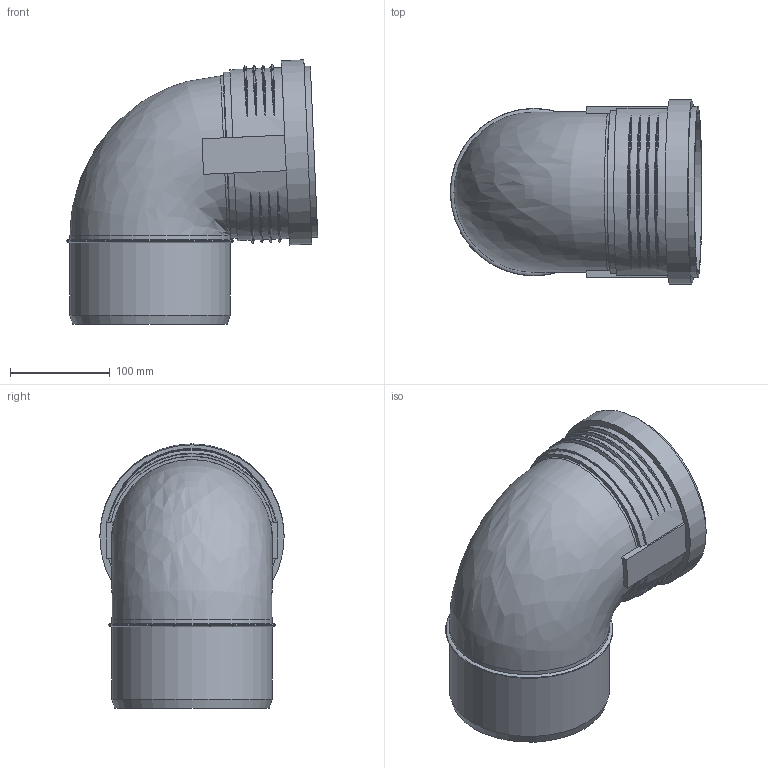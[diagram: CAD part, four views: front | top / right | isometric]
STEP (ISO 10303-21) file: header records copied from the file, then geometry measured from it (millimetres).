
FILE_DESCRIPTION(/* description */ (''),/* implementation_level */ '2;1');
FILE_NAME(/* name */ 'Z:\Geberit\Export\NewStep\390724.stp',/* time_stamp */ '2014-04-02T08:16:42+02:00',/* author */ ('ML'),/* organization */ (''),/* preprocessor_version */ 'ST-DEVELOPER v15.2',/* originating_system */ 'Autodesk Inventor 2014',/* authorisation */ '');
FILE_SCHEMA (('AUTOMOTIVE_DESIGN { 1 0 10303 214 3 1 1 }'));
Length unit declared in the file: millimetre
Products named in the file (3): 861600; 861560; 390724
Bounding box: 251.8 x 184.5 x 264.5 mm (x, y, z)
Volume: 835064 mm3; surface area: 340496.1 mm2
Topology: 2 solids, 2 shells, 68 faces, 162 edges, 109 vertices
Faces by surface type: torus 28, plane 19, cylinder 18, cone 2, bspline 1
Full cylindrical faces by diameter (mm): 149.85 x2, 150.65 x1, 160.25 x4, 161.7 x2, 171.3 x1, 174.9 x1, 184.5 x1
Entity records: 2726 total; most frequent: CARTESIAN_POINT 1150, DIRECTION 290, ORIENTED_EDGE 278, EDGE_CURVE 139, AXIS2_PLACEMENT_3D 127, VERTEX_POINT 106, EDGE_LOOP 103, STYLED_ITEM 70
